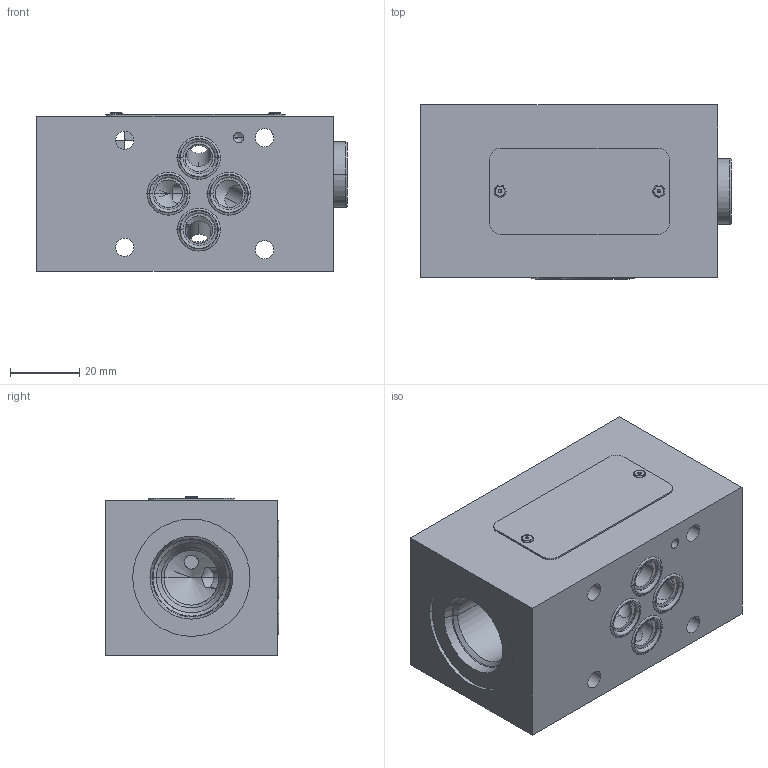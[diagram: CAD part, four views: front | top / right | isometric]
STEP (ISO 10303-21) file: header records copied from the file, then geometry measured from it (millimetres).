
FILE_DESCRIPTION((''),'2;1');
FILE_NAME('1000073099_ASM','2023-10-12T',('l.soukupova'),(''),'PRO/ENGINEER BY PARAMETRIC TECHNOLOGY CORPORATION, 2015440','PRO/ENGINEER BY PARAMETRIC TECHNOLOGY CORPORATION, 2015440','');
FILE_SCHEMA(('AUTOMOTIVE_DESIGN { 1 0 10303 214 1 1 1 1 }'));
Length unit declared in the file: millimetre
Products named in the file (9): 27981901; RD_LABEL_25X52_159703; AF_1932_16485; ORAR00012_201524_AF16; ORAR00012_201524_AF17; ORAR00012_201524_AF18; ORAR00012_201524_AF19; VSTI_1_4_EDV; 1000073099_ASM
Assembly tree (9 placements, depth 2):
  1000073099_ASM
    27981901
    RD_LABEL_25X52_159703
    AF_1932_16485  x2
    ORAR00012_201524_AF16
    ORAR00012_201524_AF17
    ORAR00012_201524_AF18
    ORAR00012_201524_AF19
    VSTI_1_4_EDV
Bounding box: 90 x 50.38 x 46 mm (x, y, z)
Volume: 166276.9 mm3; surface area: 39337.5 mm2
Topology: 9 solids, 14 shells, 267 faces, 777 edges, 614 vertices
Faces by surface type: cylinder 124, plane 52, cone 49, torus 42
Entity records: 14870 total; most frequent: CARTESIAN_POINT 3435, DIRECTION 1607, ORIENTED_EDGE 1180, PRESENTATION_STYLE_ASSIGNMENT 935, STYLED_ITEM 807, CURVE_STYLE 795, AXIS2_PLACEMENT_3D 654, EDGE_CURVE 600
